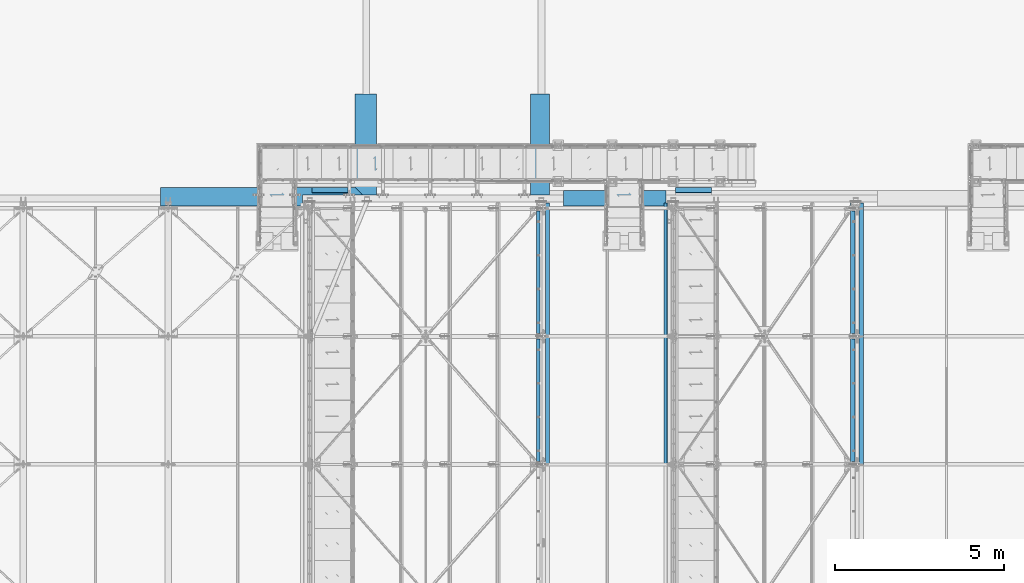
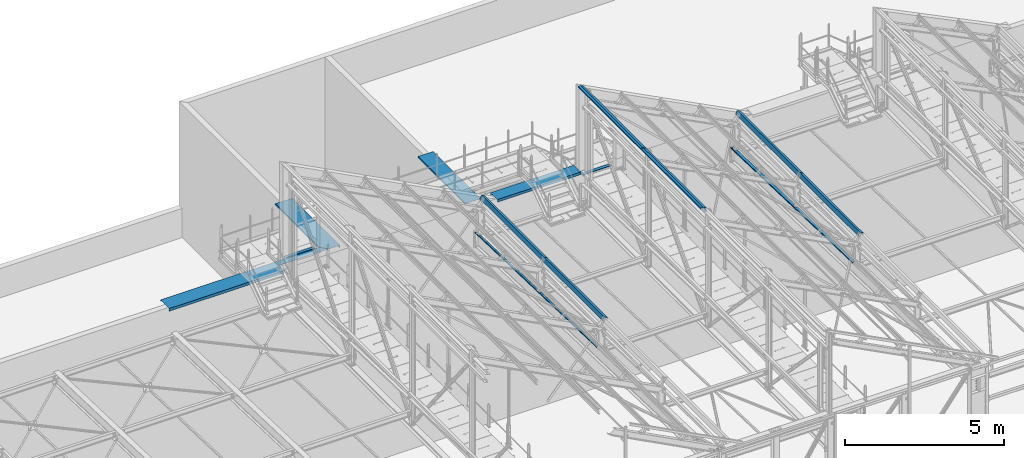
# One storey, part 348 of 362: 16 beams, 16 elements without a shape of their own.
"""IFC2X3 building model written with IfcOpenShell, lengths in millimetres."""

from ifc_helpers import new_model, si_unit, frame, origin_with_axes, place, context, subcontext, project, spatial, faceted_brep, material, type_object, element, aggregate, save


model = new_model("IFC2X3")

# Units and contexts
model_context = context("Model", 3, precision=1e-05, world=origin_with_axes())
body_context = subcontext(model_context, "Body", "Model", "MODEL_VIEW")
ifc_project = project(units=[si_unit("LENGTHUNIT", "METRE", prefix="MILLI"), si_unit("AREAUNIT", "SQUARE_METRE"), si_unit("VOLUMEUNIT", "CUBIC_METRE"), si_unit("MASSUNIT", "GRAM", prefix="KILO"), si_unit("TIMEUNIT", "SECOND"), si_unit("PLANEANGLEUNIT", "RADIAN"), si_unit("SOLIDANGLEUNIT", "STERADIAN"), si_unit("THERMODYNAMICTEMPERATUREUNIT", "DEGREE_CELSIUS"), si_unit("LUMINOUSINTENSITYUNIT", "LUMEN")], contexts=[model_context])

# Site, building, storey
site_placement = place(None, origin_with_axes())
site = spatial("IfcSite", under=ifc_project, at=site_placement, Name="Undefined", CompositionType="ELEMENT")
building_placement = place(site_placement, origin_with_axes())
building = spatial("IfcBuilding", under=site, at=building_placement, Name="Undefined", CompositionType="ELEMENT")
storey_placement = place(building_placement, origin_with_axes())
storey = spatial("IfcBuildingStorey", under=building, at=storey_placement, Name="Undefined", CompositionType="ELEMENT", Elevation=0.0)

# Assembly, beam
assembly_1_placement = place(storey_placement, origin_with_axes())
assembly_1 = element("IfcElementAssembly", 1, at=assembly_1_placement, inside=storey, AssemblyPlace="NOTDEFINED", PredefinedType="NOTDEFINED")
ifc_material = material(Name="Undefined/S235-E24")
beam_type_1 = type_object("IfcBeamType", Name="PL1*1065", PredefinedType="NOTDEFINED")
beam_1_placement = place(assembly_1_placement, frame((13279.0100000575, 15804.7464905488, 8669.96021550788), z_axis=(-1.0, 0.0, 0.0), x_axis=(0.0, 0.707106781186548, -0.707106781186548)))
beam_1 = element("IfcBeam", 2, at=beam_1_placement, type_object=beam_type_1, material=ifc_material, Name="COIFFE", ObjectType="PL1*1065", context=body_context, shape_type="Brep", body=[
    faceted_brep([(-9.09494701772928e-13, -0.5, -532.5), (-9.09494701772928e-13, -0.5, 532.5), (0.0, 0.5, 532.5), (0.0, 0.5, -532.5), (14.9999999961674, 0.5, 532.5), (14.9999999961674, 0.5, -532.5), (12.5857864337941, -0.5, -532.5), (12.5857864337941, -0.5, 532.5), (-20.3553390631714, -34.855339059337, 532.5), (-20.3553390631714, -34.855339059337, -532.5), (-20.4043516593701, -33.4901380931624, -532.5), (-20.4043516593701, -33.4901380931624, 532.5), (-136.320853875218, 65.5538265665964, 532.5), (-136.320853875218, 65.5538265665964, -532.5), (-136.369866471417, 66.919027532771, -532.5), (-136.369866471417, 66.919027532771, 532.5), (-150.462992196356, 51.4116882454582, 532.5), (-150.462992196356, 51.4116882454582, -532.5), (-151.170098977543, 52.1187950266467, 532.5), (-151.170098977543, 52.1187950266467, -532.5)], [[[0, 1, 2, 3]], [[3, 2, 4, 5]], [[1, 0, 6, 7]], [[5, 4, 8, 9]], [[7, 6, 10, 11]], [[9, 8, 12, 13]], [[11, 10, 14, 15]], [[13, 12, 16, 17]], [[12, 8, 4, 2, 1, 7, 11, 15, 18, 16]], [[15, 14, 19, 18]], [[14, 10, 6, 0, 3, 5, 9, 13, 17, 19]], [[18, 19, 17, 16]]]),
])
aggregate(assembly_1, [beam_1])

assembly_2_placement = place(storey_placement, origin_with_axes())
assembly_2 = element("IfcElementAssembly", 3, at=assembly_2_placement, inside=storey, AssemblyPlace="NOTDEFINED", PredefinedType="NOTDEFINED")
beam_2_placement = place(assembly_2_placement, frame((24069.0000000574, 15804.7467135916, 8079.96015603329), z_axis=(-1.0, 0.0, 0.0), x_axis=(0.0, 0.707106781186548, -0.707106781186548)))
beam_2 = element("IfcBeam", 4, at=beam_2_placement, type_object=beam_type_1, material=ifc_material, Name="COIFFE", ObjectType="PL1*1065", context=body_context, shape_type="Brep", body=[
    faceted_brep([(-9.09494701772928e-13, -0.5, -532.5), (-9.09494701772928e-13, -0.5, 532.5), (0.0, 0.5, 532.5), (0.0, 0.5, -532.5), (14.9999999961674, 0.5, 532.5), (14.9999999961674, 0.5, -532.5), (12.5857864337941, -0.5, -532.5), (12.5857864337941, -0.5, 532.5), (-20.3553390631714, -34.855339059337, 532.5), (-20.3553390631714, -34.855339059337, -532.5), (-20.4043516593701, -33.4901380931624, -532.5), (-20.4043516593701, -33.4901380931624, 532.5), (-136.320853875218, 65.5538265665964, 532.5), (-136.320853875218, 65.5538265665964, -532.5), (-136.369866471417, 66.919027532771, -532.5), (-136.369866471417, 66.919027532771, 532.5), (-150.462992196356, 51.4116882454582, 532.5), (-150.462992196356, 51.4116882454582, -532.5), (-151.170098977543, 52.1187950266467, 532.5), (-151.170098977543, 52.1187950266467, -532.5)], [[[0, 1, 2, 3]], [[3, 2, 4, 5]], [[1, 0, 6, 7]], [[5, 4, 8, 9]], [[7, 6, 10, 11]], [[9, 8, 12, 13]], [[11, 10, 14, 15]], [[13, 12, 16, 17]], [[12, 8, 4, 2, 1, 7, 11, 15, 18, 16]], [[15, 14, 19, 18]], [[14, 10, 6, 0, 3, 5, 9, 13, 17, 19]], [[18, 19, 17, 16]]]),
])
aggregate(assembly_2, [beam_2])

assembly_3_placement = place(storey_placement, origin_with_axes())
assembly_3 = element("IfcElementAssembly", 5, at=assembly_3_placement, inside=storey, AssemblyPlace="NOTDEFINED", PredefinedType="NOTDEFINED")
beam_type_2 = type_object("IfcBeamType", Name="PL1*3000", PredefinedType="NOTDEFINED")
beam_3_placement = place(assembly_3_placement, frame((19791.0707772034, 17089.9997612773, 8485.02993144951), z_axis=(0.0, 1.0, 0.0), x_axis=(-0.104503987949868, 0.0, 0.994524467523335)))
beam_3 = element("IfcBeam", 6, at=beam_3_placement, type_object=beam_type_2, material=ifc_material, Name="COIFFE", ObjectType="PL1*3000", context=body_context, shape_type="Brep", body=[
    faceted_brep([(6.45741238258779e-11, -0.500000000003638, -1500.0), (6.45741238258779e-11, -0.500000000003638, 1500.0), (-6.82121026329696e-11, 0.5, 1500.0), (-6.82121026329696e-11, 0.5, -1500.0), (14.9999488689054, 0.50000000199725, 1500.0), (14.9999488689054, 0.50000000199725, -1500.0), (15.0523282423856, -0.499999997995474, -1500.0), (15.0523282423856, -0.499999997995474, 1500.0), (104.507452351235, 9.90249056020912, 1500.0), (104.507452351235, 9.90249056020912, -1500.0), (103.635028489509, 8.8053427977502, -1500.0), (103.635028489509, 8.8053427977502, 1500.0), (172.974732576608, -545.986188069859, 1500.0), (172.974732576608, -545.986188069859, -1500.0), (171.8577848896, -545.098036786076, -1500.0), (171.8577848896, -545.098036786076, 1500.0), (123.250123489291, -551.210542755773, 1500.0), (123.250123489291, -551.210542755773, -1500.0), (125.546581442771, -549.963759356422, -1500.0), (125.546581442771, -549.963759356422, 1500.0), (132.690217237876, -539.553558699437, 1500.0), (132.690217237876, -539.553558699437, -1500.0), (133.467348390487, -540.18289737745, 1500.0), (133.467348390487, -540.18289737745, -1500.0)], [[[0, 1, 2, 3]], [[3, 2, 4, 5]], [[1, 0, 6, 7]], [[5, 4, 8, 9]], [[7, 6, 10, 11]], [[9, 8, 12, 13]], [[11, 10, 14, 15]], [[13, 12, 16, 17]], [[15, 14, 18, 19]], [[17, 16, 20, 21]], [[16, 12, 8, 4, 2, 1, 7, 11, 15, 19, 22, 20]], [[19, 18, 23, 22]], [[18, 14, 10, 6, 0, 3, 5, 9, 13, 17, 21, 23]], [[22, 23, 21, 20]]]),
])
aggregate(assembly_3, [beam_3])

assembly_4_placement = place(storey_placement, origin_with_axes())
assembly_4 = element("IfcElementAssembly", 7, at=assembly_4_placement, inside=storey, AssemblyPlace="NOTDEFINED", PredefinedType="NOTDEFINED")
beam_4_placement = place(assembly_4_placement, frame((14661.0707772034, 17089.9997612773, 8485.02993144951), z_axis=(0.0, 1.0, 0.0), x_axis=(-0.104503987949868, 0.0, 0.994524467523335)))
beam_4 = element("IfcBeam", 8, at=beam_4_placement, type_object=beam_type_2, material=ifc_material, Name="COIFFE", ObjectType="PL1*3000", context=body_context, shape_type="Brep", body=[
    faceted_brep([(-6.82121026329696e-11, 0.5, -1500.0), (-6.82121026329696e-11, 0.5, 1500.0), (14.9999488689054, 0.50000000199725, 1500.0), (14.9999488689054, 0.50000000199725, -1500.0), (6.45741238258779e-11, -0.500000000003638, -1500.0), (6.45741238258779e-11, -0.500000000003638, 1500.0), (15.0523282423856, -0.499999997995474, -1500.0), (15.0523282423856, -0.499999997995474, 1500.0), (103.633088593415, 8.80513901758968, -1500.0), (103.633088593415, 8.80513901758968, 1500.0), (130.565402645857, -620.827255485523, 1500.0), (180.290011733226, -615.602900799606, 1500.0), (104.507452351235, 9.90249056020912, 1500.0), (179.175070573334, -614.714538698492, 1500.0), (132.861860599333, -619.580472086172, 1500.0), (140.782627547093, -609.799610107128, 1500.0), (140.005496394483, -609.170271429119, 1500.0), (104.507452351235, 9.90249056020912, -1500.0), (153.2245040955, -392.205577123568, -1500.0), (152.229854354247, -392.310094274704, -1500.0), (179.175070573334, -614.714538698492, -1275.99735128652), (132.861860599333, -619.580472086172, -1275.99797658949), (140.782627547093, -609.799610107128, -1284.89753556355), (140.005496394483, -609.170271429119, -1285.60464191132), (130.565402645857, -620.827255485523, -1274.99800853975), (180.290011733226, -615.602900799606, -1274.99733717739)], [[[0, 1, 2, 3]], [[4, 5, 1, 0]], [[5, 4, 6, 7]], [[7, 6, 8, 9]], [[10, 11, 12, 2, 1, 5, 7, 9, 13, 14, 15, 16]], [[3, 2, 12, 17]], [[8, 6, 4, 0, 3, 17, 18, 19]], [[13, 9, 8, 19, 20]], [[14, 13, 20, 21]], [[15, 14, 21, 22]], [[16, 15, 22, 23]], [[10, 16, 23, 24]], [[11, 10, 24, 25]], [[17, 12, 11, 25, 18]], [[24, 23, 22, 21, 20, 19, 18, 25]]]),
])
aggregate(assembly_4, [beam_4])

assembly_5_placement = place(storey_placement, origin_with_axes())
assembly_5 = element("IfcElementAssembly", 9, at=assembly_5_placement, inside=storey, Name="PANNE SHED", AssemblyPlace="NOTDEFINED", PredefinedType="NOTDEFINED")
beam_type_3 = type_object("IfcBeamType", Name="PL3*3790", PredefinedType="NOTDEFINED")
beam_5_placement = place(assembly_5_placement, frame((28966.3687317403, 9500.00024422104, 8772.7482869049), z_axis=(0.0, 1.0, 0.0), x_axis=(-0.887870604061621, -1.29999898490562e-08, 0.460093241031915)))
beam_5 = element("IfcBeam", 10, at=beam_5_placement, type_object=beam_type_3, material=ifc_material, Name="PANNE SHED", ObjectType="PL3*3790", context=body_context, shape_type="Brep", body=[
    faceted_brep([(-3.49427864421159e-08, -1.49999999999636, -1895.0), (-3.52956703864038e-08, -1.5, 1895.0), (3.49573383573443e-08, 1.5, 1895.0), (3.53102223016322e-08, 1.5, -1895.0), (47.0000011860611, 1.49999889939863, 1895.0), (47.0000011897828, 1.49999889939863, -1895.0), (50.0000011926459, -1.50000117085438, -1895.0), (50.0000011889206, -1.50000117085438, 1895.0), (47.0000010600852, 135.50000220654, 1895.00000000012), (47.0000010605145, 135.500002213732, -1894.99999999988), (50.000001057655, 138.500002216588, -1894.99999999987), (50.0000010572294, 138.500002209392, 1895.00000000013), (-88.1757271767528, 135.500002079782, 1895.00000000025), (-88.175727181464, 135.50000208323, -1894.99999999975), (-90.0000023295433, 138.500002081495, -1894.99999999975), (-90.0000023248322, 138.500002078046, 1895.00000000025), (-124.14385012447, 66.0900733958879, 1895.00000000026), (-124.143850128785, 66.0900733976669, -1894.99999999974), (-126.807461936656, 67.4703531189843, 1895.00000000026), (-126.807461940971, 67.4703531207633, -1894.99999999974)], [[[0, 1, 2, 3]], [[3, 2, 4, 5]], [[1, 0, 6, 7]], [[5, 4, 8, 9]], [[7, 6, 10, 11]], [[9, 8, 12, 13]], [[11, 10, 14, 15]], [[13, 12, 16, 17]], [[12, 8, 4, 2, 1, 7, 11, 15, 18, 16]], [[15, 14, 19, 18]], [[14, 10, 6, 0, 3, 5, 9, 13, 17, 19]], [[18, 19, 17, 16]]]),
])
aggregate(assembly_5, [beam_5])

assembly_6_placement = place(storey_placement, origin_with_axes())
assembly_6 = element("IfcElementAssembly", 11, at=assembly_6_placement, inside=storey, Name="PANNE SHED", AssemblyPlace="NOTDEFINED", PredefinedType="NOTDEFINED")
beam_6_placement = place(assembly_6_placement, frame((19656.0539262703, 9500.00010459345, 8773.41543701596), z_axis=(0.0, 1.0, 0.0), x_axis=(-0.886081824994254, 0.0, 0.463528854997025)))
beam_6 = element("IfcBeam", 12, at=beam_6_placement, type_object=beam_type_3, material=ifc_material, Name="PANNE SHED", ObjectType="PL3*3790", context=body_context, shape_type="Brep", body=[
    faceted_brep([(-3.49427864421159e-08, -1.49999999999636, -1895.0), (-3.52956703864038e-08, -1.5, 1895.0), (3.49573383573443e-08, 1.5, 1895.0), (3.53102223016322e-08, 1.5, -1895.0), (47.0000011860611, 1.49999889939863, 1895.0), (47.0000011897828, 1.49999889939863, -1895.0), (50.0000011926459, -1.50000117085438, -1895.0), (50.0000011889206, -1.50000117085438, 1895.0), (47.0000010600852, 135.50000220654, 1895.00000000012), (47.0000010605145, 135.500002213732, -1894.99999999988), (50.000001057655, 138.500002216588, -1894.99999999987), (50.0000010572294, 138.500002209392, 1895.00000000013), (-88.1836776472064, 135.500002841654, 1895.0000000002), (-88.1836776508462, 135.500002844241, -1894.9999999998), (-90.0000023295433, 138.500002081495, -1894.99999999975), (-90.0000023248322, 138.500002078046, 1895.00000000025), (-124.424035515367, 66.2228546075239, 1895.00000000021), (-124.424035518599, 66.2228546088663, -1894.99999999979), (-127.082281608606, 67.6134399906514, 1895.00000000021), (-127.082281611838, 67.6134399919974, -1894.99999999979)], [[[0, 1, 2, 3]], [[3, 2, 4, 5]], [[1, 0, 6, 7]], [[5, 4, 8, 9]], [[7, 6, 10, 11]], [[9, 8, 12, 13]], [[11, 10, 14, 15]], [[13, 12, 16, 17]], [[12, 8, 4, 2, 1, 7, 11, 15, 18, 16]], [[15, 14, 19, 18]], [[14, 10, 6, 0, 3, 5, 9, 13, 17, 19]], [[18, 19, 17, 16]]]),
])
aggregate(assembly_6, [beam_6])

assembly_7_placement = place(storey_placement, origin_with_axes())
assembly_7 = element("IfcElementAssembly", 13, at=assembly_7_placement, inside=storey, Name="PANNE SHED", AssemblyPlace="NOTDEFINED", PredefinedType="NOTDEFINED")
beam_7_placement = place(assembly_7_placement, frame((23194.99999895, 9500.00015768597, 11825.822934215), z_axis=(0.0, 1.0, 0.0), x_axis=(0.0, 0.0, 1.0)))
beam_7 = element("IfcBeam", 14, at=beam_7_placement, type_object=beam_type_3, material=ifc_material, Name="PANNE SHED", ObjectType="PL3*3790", context=body_context, shape_type="Brep", body=[
    faceted_brep([(-3.49427864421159e-08, -1.49999999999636, -1895.0), (-3.52956703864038e-08, -1.5, 1895.0), (3.49573383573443e-08, 1.5, 1895.0), (3.53102223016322e-08, 1.5, -1895.0), (47.0000011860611, 1.49999889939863, 1895.0), (47.0000011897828, 1.49999889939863, -1895.0), (50.0000011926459, -1.50000117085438, -1895.0), (50.0000011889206, -1.50000117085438, 1895.0), (47.0, 83.4669820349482, 1895.0), (47.0, 83.4669820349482, -1895.0), (50.0, 84.198112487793, -1895.0), (50.0, 84.198112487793, 1895.0), (-16.2373286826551, 205.5, 1895.0), (-16.2373286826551, 205.5, -1895.0), (-14.4130535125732, 208.5, -1895.0), (-14.4130535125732, 208.5, 1895.0), (-151.413055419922, 205.5, 1895.0), (-151.413055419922, 205.5, -1895.0), (-154.413055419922, 208.5, -1895.0), (-154.413055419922, 208.5, 1895.0), (-151.413055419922, 158.5, 1895.0), (-151.413055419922, 158.5, -1895.0), (-154.413055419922, 158.5, 1895.0), (-154.413055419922, 158.5, -1895.0)], [[[0, 1, 2, 3]], [[3, 2, 4, 5]], [[1, 0, 6, 7]], [[5, 4, 8, 9]], [[7, 6, 10, 11]], [[9, 8, 12, 13]], [[11, 10, 14, 15]], [[13, 12, 16, 17]], [[15, 14, 18, 19]], [[17, 16, 20, 21]], [[16, 12, 8, 4, 2, 1, 7, 11, 15, 19, 22, 20]], [[19, 18, 23, 22]], [[18, 14, 10, 6, 0, 3, 5, 9, 13, 17, 21, 23]], [[22, 23, 21, 20]]]),
])
aggregate(assembly_7, [beam_7])

assembly_8_placement = place(storey_placement, origin_with_axes())
assembly_8 = element("IfcElementAssembly", 15, at=assembly_8_placement, inside=storey, AssemblyPlace="NOTDEFINED", PredefinedType="NOTDEFINED")
beam_type_4 = type_object("IfcBeamType", Name="PL1*3045", PredefinedType="NOTDEFINED")
beam_8_placement = place(assembly_8_placement, frame((21731.0000035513, 15725.551813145, 8490.0025537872), z_axis=(-1.0, 0.0, 0.0), x_axis=(0.0, -0.104503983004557, 0.994524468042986)))
beam_8 = element("IfcBeam", 16, at=beam_8_placement, type_object=beam_type_4, material=ifc_material, Name="COIFFE", ObjectType="PL1*3045", context=body_context, shape_type="Brep", body=[
    faceted_brep([(2.60934029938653e-09, -0.5, -1522.5), (2.60934029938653e-09, -0.5, 1522.5), (-2.6102497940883e-09, 0.5, 1522.5), (-2.6102497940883e-09, 0.5, -1522.5), (9.99994928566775, 0.500000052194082, 1522.5), (9.99994928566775, 0.500000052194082, -1522.5), (10.0523286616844, -0.49999994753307, -1522.5), (10.0523286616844, -0.49999994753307, 1522.5), (99.5074489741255, 9.90249021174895, 1522.5), (99.5074489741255, 9.90249021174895, -1522.5), (98.6392763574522, 8.80578902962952, -1522.5), (98.6392763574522, 8.80578902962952, 1522.5), (156.478023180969, -436.588628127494, 1522.5), (156.478023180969, -436.588628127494, -1522.5), (155.356650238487, -435.700941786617, -1522.5), (155.356650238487, -435.700941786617, 1522.5), (57.0288088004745, -447.037337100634, 1522.5), (57.0288088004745, -447.037337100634, -1522.5), (59.3252667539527, -445.790553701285, -1522.5), (59.3252667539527, -445.790553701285, 1522.5), (66.4689025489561, -435.380353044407, 1522.5), (66.4689025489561, -435.380353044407, -1522.5), (67.2460337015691, -436.009691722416, 1522.5), (67.2460337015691, -436.009691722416, -1522.5)], [[[0, 1, 2, 3]], [[3, 2, 4, 5]], [[1, 0, 6, 7]], [[5, 4, 8, 9]], [[7, 6, 10, 11]], [[9, 8, 12, 13]], [[11, 10, 14, 15]], [[13, 12, 16, 17]], [[15, 14, 18, 19]], [[17, 16, 20, 21]], [[16, 12, 8, 4, 2, 1, 7, 11, 15, 19, 22, 20]], [[19, 18, 23, 22]], [[18, 14, 10, 6, 0, 3, 5, 9, 13, 17, 21, 23]], [[22, 23, 21, 20]]]),
])
aggregate(assembly_8, [beam_8])

assembly_9_placement = place(storey_placement, origin_with_axes())
assembly_9 = element("IfcElementAssembly", 17, at=assembly_9_placement, inside=storey, AssemblyPlace="NOTDEFINED", PredefinedType="NOTDEFINED")
beam_type_5 = type_object("IfcBeamType", Name="PL1*6000", PredefinedType="NOTDEFINED")
beam_9_placement = place(assembly_9_placement, frame((11255.0000220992, 15273.9292663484, 8485.02993144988), z_axis=(-1.0, 0.0, 0.0), x_axis=(0.0, 0.104503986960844, 0.994524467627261)))
beam_9 = element("IfcBeam", 18, at=beam_9_placement, type_object=beam_type_5, material=ifc_material, Name="COIFFE", ObjectType="PL1*6000", context=body_context, shape_type="Brep", body=[
    faceted_brep([(104.507452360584, -9.9024904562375, -1208.49998630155), (14.9999488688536, -0.49999998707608, -1208.49998630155), (4.29281499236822e-10, -0.5, -1208.49998630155), (-4.3473846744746e-10, 0.499999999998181, -1208.49998630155), (15.0523282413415, 0.500000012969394, -1208.49998630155), (103.635672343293, -8.80541032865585, -1208.49998630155), (142.23186518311, 302.865200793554, -1208.49998630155), (143.226560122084, 302.760678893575, -1208.49998630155), (143.226559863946, 302.7606789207, -2999.99998630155), (142.231863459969, 302.865186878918, -3000.0), (169.765982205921, 525.207728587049, 3000.0), (123.455446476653, 530.073380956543, 3000.0), (123.455446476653, 530.073380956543, -2775.99820668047), (169.765982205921, 525.207728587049, -2775.99758141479), (131.376213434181, 520.292518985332, 3000.0), (131.376213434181, 520.292518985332, -2784.89775735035), (130.599082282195, 519.663180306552, 3000.0), (121.158988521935, 531.320164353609, 3000.0), (121.158988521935, 531.320164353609, -2774.99823956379), (130.599082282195, 519.663180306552, -2785.60486303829), (103.635672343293, -8.80541032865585, 3000.0), (15.0523282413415, 0.500000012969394, 3000.0), (-4.3473846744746e-10, 0.499999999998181, 3000.0), (4.29281499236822e-10, -0.5, 3000.0), (14.9999488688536, -0.49999998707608, 3000.0), (104.507452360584, -9.9024904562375, 3000.0), (170.883597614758, 526.095809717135, 3000.0), (170.883597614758, 526.095809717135, -2774.99756820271)], [[[0, 1, 2, 3, 4, 5, 6, 7]], [[8, 7, 6, 9]], [[10, 11, 12, 13]], [[11, 14, 15, 12]], [[16, 17, 18, 19]], [[14, 16, 19, 15]], [[11, 10, 20, 21, 22, 23, 24, 25, 26, 17, 16, 14]], [[17, 26, 27, 18]], [[13, 12, 15, 19, 18, 27, 8, 9]], [[5, 20, 10, 13, 9, 6]], [[21, 20, 5, 4]], [[22, 21, 4, 3]], [[23, 22, 3, 2]], [[24, 23, 2, 1]], [[25, 24, 1, 0]], [[27, 26, 25, 0, 7, 8]]]),
])
aggregate(assembly_9, [beam_9])

assembly_10_placement = place(storey_placement, origin_with_axes())
assembly_10 = element("IfcElementAssembly", 19, at=assembly_10_placement, inside=storey, Name="POUTRE", AssemblyPlace="NOTDEFINED", PredefinedType="NOTDEFINED")
beam_type_6 = type_object("IfcBeamType", Name="PL2*4000", PredefinedType="NOTDEFINED")
beam_10_placement = place(assembly_10_placement, frame((28859.9999999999, 9499.71697919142, 7752.46034983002), z_axis=(3.14103090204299e-11, 0.999506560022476, -0.0314107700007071), x_axis=(-1.0, 0.0, 0.0)))
beam_10 = element("IfcBeam", 20, at=beam_10_placement, type_object=beam_type_6, material=ifc_material, Name="POUTRE", ObjectType="PL2*4000", context=body_context, shape_type="Brep", body=[
    faceted_brep([(84.9999999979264, 0.999999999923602, 1895.93800542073), (84.9999999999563, 0.999999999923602, 1815.93800543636), (84.9999999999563, -1.00000000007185, 1815.93800543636), (84.9999999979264, -1.00000000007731, 1895.93800542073), (7.27595761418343e-12, 1.00000000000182, 1815.93800543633), (0.0, -0.999999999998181, 1815.93800543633), (137.999999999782, 39.0000003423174, -1895.93800544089), (137.999999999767, 0.999999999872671, -1895.9380054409), (137.999999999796, 0.999999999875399, 1895.93800542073), (137.999999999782, 39.0000003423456, 1895.93800542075), (139.999999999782, 39.0000003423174, -1895.93800544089), (139.999999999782, 39.0000003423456, 1895.93800542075), (139.999999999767, -1.00000000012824, -1895.93800544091), (139.999999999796, -1.00000000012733, 1895.93800542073), (85.0000000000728, -1.00000000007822, -1895.93800544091), (85.0000000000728, 0.999999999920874, -1895.9380054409), (85.0000000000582, -1.00000000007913, -1815.93800540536), (85.0000000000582, 0.999999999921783, -1815.93800540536), (0.0, 1.0, -1815.93800540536), (-7.27595761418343e-12, -1.00000000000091, -1815.93800540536)], [[[0, 1, 2, 3]], [[4, 5, 2, 1]], [[6, 7, 8, 9]], [[10, 6, 9, 11]], [[12, 10, 11, 13]], [[7, 6, 10, 12, 14, 15]], [[15, 14, 16, 17]], [[18, 17, 16, 19]], [[0, 8, 7, 15, 17, 18, 4, 1]], [[13, 11, 9, 8, 0, 3]], [[19, 16, 14, 12, 13, 3, 2, 5]], [[18, 19, 5, 4]]]),
])
aggregate(assembly_10, [beam_10])

assembly_11_placement = place(storey_placement, origin_with_axes())
assembly_11 = element("IfcElementAssembly", 21, at=assembly_11_placement, inside=storey, Name="POUTRE", AssemblyPlace="NOTDEFINED", PredefinedType="NOTDEFINED")
beam_11_placement = place(assembly_11_placement, frame((28859.9999999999, 13351.0192249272, 7631.42783689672), z_axis=(3.14103090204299e-11, 0.999506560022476, -0.0314107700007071), x_axis=(-1.0, 0.0, 0.0)))
beam_11 = element("IfcBeam", 22, at=beam_11_placement, type_object=beam_type_6, material=ifc_material, Name="POUTRE", ObjectType="PL2*4000", context=body_context, shape_type="Brep", body=[
    faceted_brep([(2.3283064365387e-10, 1.00000000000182, 1764.61043258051), (2.3283064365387e-10, -0.999999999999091, 1764.6104325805), (84.999999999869, -1.00000000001, 1764.61043258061), (84.999999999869, 0.999999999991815, 1764.61043258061), (85.0000000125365, -1.00000000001, 1934.61043258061), (85.0000000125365, 0.999999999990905, 1934.61043258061), (2.5465851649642e-10, 1.00000000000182, 1934.61043258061), (2.5465851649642e-10, -0.999999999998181, 1934.61043258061), (138.000000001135, 0.99999999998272, 1999.99999999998), (138.000000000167, 39.0000003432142, 1999.99999999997), (137.999999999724, 39.0000003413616, -1947.26557824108), (137.999999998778, 0.999999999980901, -1947.26557824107), (140.000000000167, 39.0000003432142, 1999.99999999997), (140.000000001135, -1.00000000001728, 1999.99999999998), (139.999999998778, -1.00000000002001, -1947.26557824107), (139.999999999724, 39.0000003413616, -1947.26557824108), (-2.47382558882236e-10, 1.0, -1867.26557823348), (84.9999999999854, 0.999999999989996, -1867.26557823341), (84.9999999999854, -1.00000000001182, -1867.26557823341), (-2.47382558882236e-10, -1.00000000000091, -1867.26557823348), (85.0000000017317, 0.999999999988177, -1947.26557824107), (85.0000000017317, -1.00000000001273, -1947.26557824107), (2.61934474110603e-10, 1.00000000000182, 2000.0), (2.61934474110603e-10, -0.999999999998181, 2000.0)], [[[0, 1, 2, 3]], [[3, 2, 4, 5]], [[6, 5, 4, 7]], [[8, 9, 10, 11]], [[12, 13, 14, 15]], [[16, 17, 18, 19]], [[20, 21, 18, 17]], [[11, 10, 15, 14, 21, 20]], [[9, 12, 15, 10]], [[8, 22, 23, 13, 12, 9]], [[23, 22, 6, 7]], [[2, 1, 19, 18, 21, 14, 13, 23, 7, 4]], [[16, 19, 1, 0]], [[22, 8, 11, 20, 17, 16, 0, 3, 5, 6]]]),
])
aggregate(assembly_11, [beam_11])

assembly_12_placement = place(storey_placement, origin_with_axes())
assembly_12 = element("IfcElementAssembly", 23, at=assembly_12_placement, inside=storey, Name="POUTRE", AssemblyPlace="NOTDEFINED", PredefinedType="NOTDEFINED")
beam_12_placement = place(assembly_12_placement, frame((19509.9999999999, 9499.7169791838, 7752.46034983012), z_axis=(3.14103090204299e-11, 0.999506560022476, -0.0314107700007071), x_axis=(-1.0, 0.0, 0.0)))
beam_12 = element("IfcBeam", 24, at=beam_12_placement, type_object=beam_type_6, material=ifc_material, Name="POUTRE", ObjectType="PL2*4000", context=body_context, shape_type="Brep", body=[
    faceted_brep([(84.9999999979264, 0.999999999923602, 1895.93800542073), (84.9999999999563, 0.999999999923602, 1815.93800543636), (84.9999999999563, -1.00000000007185, 1815.93800543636), (84.9999999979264, -1.00000000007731, 1895.93800542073), (7.27595761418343e-12, 1.00000000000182, 1815.93800543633), (0.0, -0.999999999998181, 1815.93800543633), (97.9999999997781, 39.0000003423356, -1895.93800544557), (97.9999999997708, 0.999999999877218, -1895.93800544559), (97.9999999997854, 0.999999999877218, 1895.93800542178), (97.9999999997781, 39.0000003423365, 1895.9380054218), (99.9999999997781, 39.0000003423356, -1895.93800544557), (99.9999999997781, 39.0000003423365, 1895.9380054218), (99.9999999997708, -1.00000000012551, -1895.93800544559), (99.9999999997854, -1.0000000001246, 1895.93800542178), (85.0000000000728, -1.00000000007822, -1895.93800544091), (85.0000000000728, 0.999999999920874, -1895.9380054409), (85.0000000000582, -1.00000000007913, -1815.93800540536), (85.0000000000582, 0.999999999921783, -1815.93800540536), (0.0, 1.0, -1815.93800540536), (-7.27595761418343e-12, -1.00000000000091, -1815.93800540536)], [[[0, 1, 2, 3]], [[4, 5, 2, 1]], [[6, 7, 8, 9]], [[10, 6, 9, 11]], [[12, 10, 11, 13]], [[7, 6, 10, 12, 14, 15]], [[15, 14, 16, 17]], [[18, 17, 16, 19]], [[0, 8, 7, 15, 17, 18, 4, 1]], [[13, 11, 9, 8, 0, 3]], [[19, 16, 14, 12, 13, 3, 2, 5]], [[18, 19, 5, 4]]]),
])
aggregate(assembly_12, [beam_12])

assembly_13_placement = place(storey_placement, origin_with_axes())
assembly_13 = element("IfcElementAssembly", 25, at=assembly_13_placement, inside=storey, Name="POUTRE", AssemblyPlace="NOTDEFINED", PredefinedType="NOTDEFINED")
beam_13_placement = place(assembly_13_placement, frame((19509.9999999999, 13351.0192249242, 7631.42783689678), z_axis=(3.14103090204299e-11, 0.999506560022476, -0.0314107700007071), x_axis=(-1.0, 0.0, 0.0)))
beam_13 = element("IfcBeam", 26, at=beam_13_placement, type_object=beam_type_6, material=ifc_material, Name="POUTRE", ObjectType="PL2*4000", context=body_context, shape_type="Brep", body=[
    faceted_brep([(2.3283064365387e-10, 1.00000000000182, 1764.61043258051), (2.3283064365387e-10, -0.999999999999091, 1764.6104325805), (84.999999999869, -1.00000000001, 1764.61043258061), (84.999999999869, 0.999999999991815, 1764.61043258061), (85.0000000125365, -1.00000000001, 1934.61043258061), (85.0000000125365, 0.999999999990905, 1934.61043258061), (2.5465851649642e-10, 1.00000000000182, 1934.61043258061), (2.5465851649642e-10, -0.999999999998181, 1934.61043258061), (98.0000000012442, 0.999999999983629, 1999.99999999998), (98.0000000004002, 39.0000003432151, 1999.99999999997), (97.9999999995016, 39.0000003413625, -1947.26557824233), (97.9999999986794, 0.99999999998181, -1947.26557824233), (100.0000000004, 39.0000003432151, 1999.99999999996), (100.000000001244, -1.00000000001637, 1999.99999999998), (99.9999999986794, -1.0000000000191, -1947.26557824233), (99.9999999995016, 39.0000003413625, -1947.26557824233), (-2.47382558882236e-10, 1.0, -1867.26557823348), (84.9999999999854, 0.999999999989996, -1867.26557823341), (84.9999999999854, -1.00000000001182, -1867.26557823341), (-2.47382558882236e-10, -1.00000000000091, -1867.26557823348), (85.0000000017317, 0.999999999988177, -1947.26557824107), (85.0000000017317, -1.00000000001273, -1947.26557824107), (2.61934474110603e-10, 1.00000000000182, 2000.0), (2.61934474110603e-10, -0.999999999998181, 2000.0)], [[[0, 1, 2, 3]], [[3, 2, 4, 5]], [[6, 5, 4, 7]], [[8, 9, 10, 11]], [[12, 13, 14, 15]], [[16, 17, 18, 19]], [[20, 21, 18, 17]], [[11, 10, 15, 14, 21, 20]], [[9, 12, 15, 10]], [[8, 22, 23, 13, 12, 9]], [[23, 22, 6, 7]], [[2, 1, 19, 18, 21, 14, 13, 23, 7, 4]], [[16, 19, 1, 0]], [[22, 8, 11, 20, 17, 16, 0, 3, 5, 6]]]),
])
aggregate(assembly_13, [beam_13])

assembly_14_placement = place(storey_placement, origin_with_axes())
assembly_14 = element("IfcElementAssembly", 27, at=assembly_14_placement, inside=storey, Name="PANNE SHED", AssemblyPlace="NOTDEFINED", PredefinedType="NOTDEFINED")
beam_type_7 = type_object("IfcBeamType", Name="PL3*3950", PredefinedType="NOTDEFINED")
beam_14_placement = place(assembly_14_placement, frame((19656.0539262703, 13380.0001045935, 8773.41543701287), z_axis=(0.0, 1.0, 0.0), x_axis=(-0.886081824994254, 0.0, 0.463528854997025)))
beam_14 = element("IfcBeam", 28, at=beam_14_placement, type_object=beam_type_7, material=ifc_material, Name="PANNE SHED", ObjectType="PL3*3950", context=body_context, shape_type="Brep", body=[
    faceted_brep([(-4.57112037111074e-09, -1.5, -1975.0), (-2.82489054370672e-09, -1.49999999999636, 1975.0), (4.56748239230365e-09, 1.50000000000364, 1975.0), (2.82125256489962e-09, 1.5, -1975.0), (46.9999982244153, 1.49999988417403, 1974.99999999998), (46.9999982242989, 1.49999988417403, -1975.00000000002), (49.9999982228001, -1.50000012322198, -1975.00000000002), (49.9999982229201, -1.50000012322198, 1974.99999999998), (46.999998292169, 135.499998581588, 1975.00000000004), (46.9999982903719, 135.499998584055, -1974.99999999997), (49.9999982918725, 138.499998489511, -1974.99999999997), (49.9999982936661, 138.499998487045, 1975.00000000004), (-88.1836776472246, 135.500002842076, 1975.00000000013), (-88.1836776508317, 135.500002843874, -1974.99999999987), (-90.0000045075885, 138.50000290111, -1974.99999999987), (-90.0000045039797, 138.500002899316, 1975.00000000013), (-124.424035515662, 66.2228546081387, 1975.00000000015), (-124.424035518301, 66.2228546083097, -1974.99999999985), (-127.082281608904, 67.6134399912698, 1975.00000000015), (-127.08228161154, 67.6134399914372, -1974.99999999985)], [[[0, 1, 2, 3]], [[3, 2, 4, 5]], [[1, 0, 6, 7]], [[5, 4, 8, 9]], [[7, 6, 10, 11]], [[9, 8, 12, 13]], [[11, 10, 14, 15]], [[13, 12, 16, 17]], [[12, 8, 4, 2, 1, 7, 11, 15, 18, 16]], [[15, 14, 19, 18]], [[14, 10, 6, 0, 3, 5, 9, 13, 17, 19]], [[18, 19, 17, 16]]]),
])
aggregate(assembly_14, [beam_14])

assembly_15_placement = place(storey_placement, origin_with_axes())
assembly_15 = element("IfcElementAssembly", 29, at=assembly_15_placement, inside=storey, Name="PANNE SHED", AssemblyPlace="NOTDEFINED", PredefinedType="NOTDEFINED")
beam_15_placement = place(assembly_15_placement, frame((28966.3687317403, 13380.000244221, 8772.74828689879), z_axis=(0.0, 1.0, 0.0), x_axis=(-0.887870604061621, -1.29999898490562e-08, 0.460093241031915)))
beam_15 = element("IfcBeam", 30, at=beam_15_placement, type_object=beam_type_7, material=ifc_material, Name="PANNE SHED", ObjectType="PL3*3950", context=body_context, shape_type="Brep", body=[
    faceted_brep([(-4.57112037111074e-09, -1.5, -1975.0), (-2.82489054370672e-09, -1.49999999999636, 1975.0), (4.56748239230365e-09, 1.50000000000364, 1975.0), (2.82125256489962e-09, 1.5, -1975.0), (46.9999982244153, 1.49999988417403, 1974.99999999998), (46.9999982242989, 1.49999988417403, -1975.00000000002), (49.9999982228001, -1.50000012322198, -1975.00000000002), (49.9999982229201, -1.50000012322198, 1974.99999999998), (46.999998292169, 135.499998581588, 1975.00000000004), (46.9999982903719, 135.499998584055, -1974.99999999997), (49.9999982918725, 138.499998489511, -1974.99999999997), (49.9999982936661, 138.499998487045, 1975.00000000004), (-88.1757271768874, 135.50000208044, 1975.00000000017), (-88.1757271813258, 135.500002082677, -1974.99999999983), (-90.0000045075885, 138.50000290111, -1974.99999999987), (-90.0000045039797, 138.500002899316, 1975.00000000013), (-124.143850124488, 66.0900733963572, 1975.0000000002), (-124.143850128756, 66.0900733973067, -1974.9999999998), (-126.807461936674, 67.4703531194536, 1975.0000000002), (-126.807461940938, 67.4703531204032, -1974.9999999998)], [[[0, 1, 2, 3]], [[3, 2, 4, 5]], [[1, 0, 6, 7]], [[5, 4, 8, 9]], [[7, 6, 10, 11]], [[9, 8, 12, 13]], [[11, 10, 14, 15]], [[13, 12, 16, 17]], [[12, 8, 4, 2, 1, 7, 11, 15, 18, 16]], [[15, 14, 19, 18]], [[14, 10, 6, 0, 3, 5, 9, 13, 17, 19]], [[18, 19, 17, 16]]]),
])
aggregate(assembly_15, [beam_15])

assembly_16_placement = place(storey_placement, origin_with_axes())
assembly_16 = element("IfcElementAssembly", 31, at=assembly_16_placement, inside=storey, Name="PANNE SHED", AssemblyPlace="NOTDEFINED", PredefinedType="NOTDEFINED")
beam_16_placement = place(assembly_16_placement, frame((23194.99999895, 13380.000157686, 11825.8229342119), z_axis=(0.0, 1.0, 0.0), x_axis=(0.0, 0.0, 1.0)))
beam_16 = element("IfcBeam", 32, at=beam_16_placement, type_object=beam_type_7, material=ifc_material, Name="PANNE SHED", ObjectType="PL3*3950", context=body_context, shape_type="Brep", body=[
    faceted_brep([(-4.57112037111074e-09, -1.5, -1975.0), (-2.82489054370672e-09, -1.49999999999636, 1975.0), (4.56748239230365e-09, 1.50000000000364, 1975.0), (2.82125256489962e-09, 1.5, -1975.0), (46.9999982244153, 1.49999988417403, 1974.99999999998), (46.9999982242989, 1.49999988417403, -1975.00000000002), (49.9999982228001, -1.50000012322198, -1975.00000000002), (49.9999982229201, -1.50000012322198, 1974.99999999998), (47.0, 83.4669820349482, 1975.0), (47.0, 83.4669820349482, -1975.0), (50.0, 84.198112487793, -1975.0), (50.0, 84.198112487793, 1975.0), (-16.2373286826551, 205.5, 1975.0), (-16.2373286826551, 205.5, -1975.0), (-14.4130535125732, 208.5, -1975.0), (-14.4130535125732, 208.5, 1975.0), (-151.413055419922, 205.5, 1975.0), (-151.413055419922, 205.5, -1975.0), (-154.413055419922, 208.5, -1975.0), (-154.413055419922, 208.5, 1975.0), (-151.413055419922, 158.5, 1975.0), (-151.413055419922, 158.5, -1975.0), (-154.413055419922, 158.5, 1975.0), (-154.413055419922, 158.5, -1975.0)], [[[0, 1, 2, 3]], [[3, 2, 4, 5]], [[1, 0, 6, 7]], [[5, 4, 8, 9]], [[7, 6, 10, 11]], [[9, 8, 12, 13]], [[11, 10, 14, 15]], [[13, 12, 16, 17]], [[15, 14, 18, 19]], [[17, 16, 20, 21]], [[16, 12, 8, 4, 2, 1, 7, 11, 15, 19, 22, 20]], [[19, 18, 23, 22]], [[18, 14, 10, 6, 0, 3, 5, 9, 13, 17, 21, 23]], [[22, 23, 21, 20]]]),
])
aggregate(assembly_16, [beam_16])

save(model, "model.ifc")
